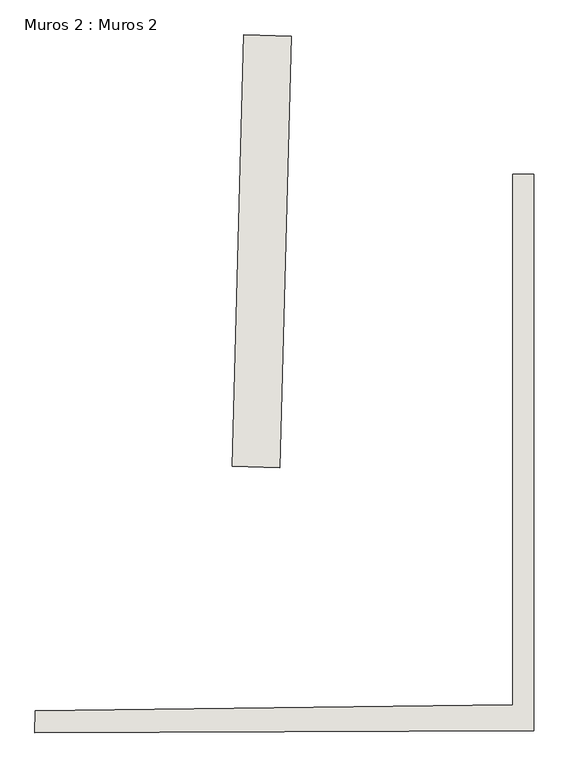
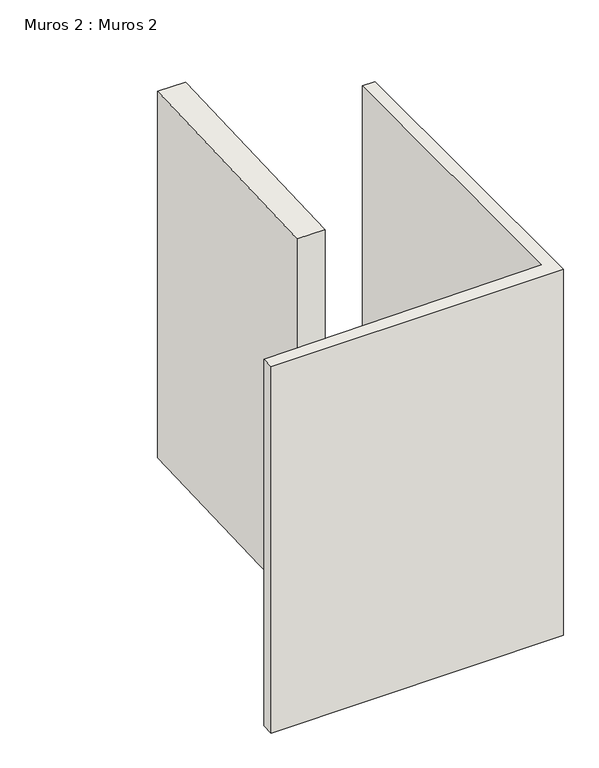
"""IFC4 building model written with IfcOpenShell, lengths in millimetres: wall geometry, Muros 2 : Muros 2."""

from ifc_helpers import new_model, si_unit, origin, origin_with_axes, place, context, project, spatial, polyline, outline, extrude, source, transform, mapped, element, save


def muros_2_muros_2_62093be4(model_context):
    return source(origin(), model_context, "Body", "SweptSolid", [
        extrude(outline(polyline([(6947.4785808, 148.3723097), (6947.4785808, 2399.3030939), (7036.7454884, 2399.3030939), (7036.7454884, 37.8825208), (4919.2577739, 29.2158946), (4921.5562839, 122.8276602), (6947.4785808, 148.3723097)])), origin_with_axes(), (0.0, 0.0, 1.0), 2800.0),
        extrude(outline(polyline([(5957.476782, 1155.2378128), (5757.5370054, 1160.1473478), (5806.2411759, 2991.3519334), (6006.1809092, 2986.4423994), (5957.476782, 1155.2378128)])), origin_with_axes(), (0.0, 0.0, 1.0), 2800.0),
    ])


if __name__ == "__main__":
    model = new_model("IFC4")
    model_context = context("Model", 3, world=origin())
    ifc_project = project(units=[si_unit("LENGTHUNIT", "METRE", prefix="MILLI")], contexts=[model_context])
    site = spatial("IfcSite", under=ifc_project)
    building = spatial("IfcBuilding", under=site)
    placement = place(None, origin())
    muros_2_muros_2_shape = muros_2_muros_2_62093be4(model_context)
    element("IfcWall", 1, ObjectType="Muros 2 : Muros 2", at=placement, inside=building, context=model_context, shape_type="MappedRepresentation", body=[
        mapped(muros_2_muros_2_shape, transform((0.0, 0.0, 0.0), x_axis=(1.0, 0.0, 0.0), y_axis=(0.0, 1.0, 0.0), z_axis=(0.0, 0.0, 1.0))),
    ])
    save(model, "model.ifc")
